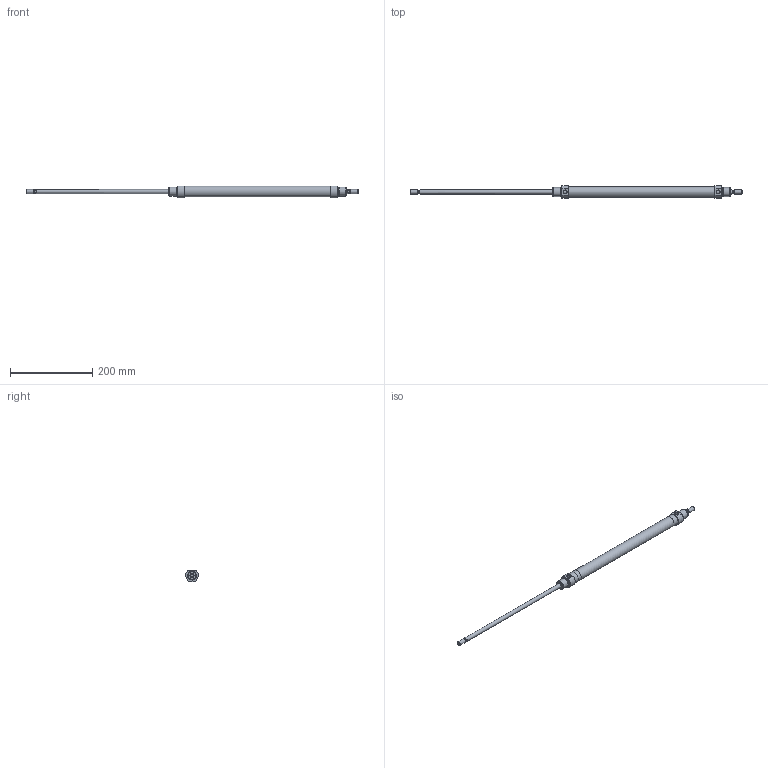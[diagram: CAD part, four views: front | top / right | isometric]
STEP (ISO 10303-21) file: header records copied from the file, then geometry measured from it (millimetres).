
FILE_DESCRIPTION( ( 'STEP AP203' ), '1' );
FILE_NAME( '//expscmdclustefs.cadenas.external/client_exchange/iodir/jobs/output/wkb68465385_no0/STEP/M101-025-0320--__0__2_03.stp', ' ', ( ' ' ), ( ' ' ), 'PSStep 15.0.47', 'PARTsolutions', ' ' );
FILE_SCHEMA( ( 'CONFIG_CONTROL_DESIGN' ) );
Length unit declared in the file: millimetre
Products named in the file (3): M101-025-0320-- [0]; HI_M101-025-0320---[0]-z; HI_M101-025-0320---[0]-k
Assembly tree (2 placements, depth 2):
  M101-025-0320-- [0]
    HI_M101-025-0320---[0]-z
    HI_M101-025-0320---[0]-k
Bounding box: 809 x 31 x 28.79 mm (x, y, z)
Volume: 134431.9 mm3; surface area: 94744.6 mm2
Topology: 2 solids, 2 shells, 63 faces, 123 edges, 74 vertices
Faces by surface type: plane 28, cylinder 23, cone 10, torus 2
Full cylindrical faces by diameter (mm): 8.16 x2, 8.566 x2, 10 x6, 20.16 x4, 22 x4, 25 x2, 26.6 x1
Entity records: 1700 total; most frequent: CARTESIAN_POINT 390, DIRECTION 276, ORIENTED_EDGE 176, AXIS2_PLACEMENT_3D 124, EDGE_LOOP 112, EDGE_CURVE 88, FACE_OUTER_BOUND 86, VERTEX_POINT 72
